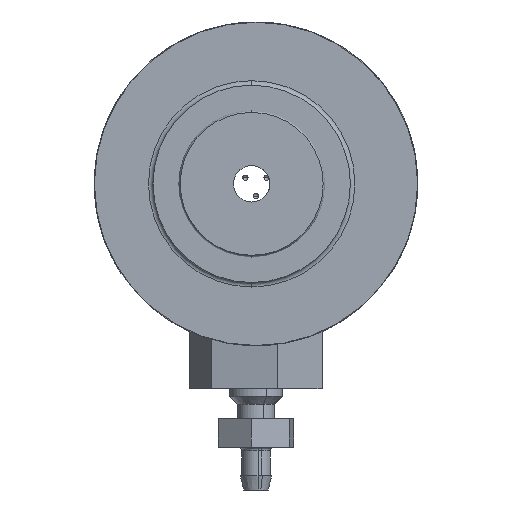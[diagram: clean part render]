
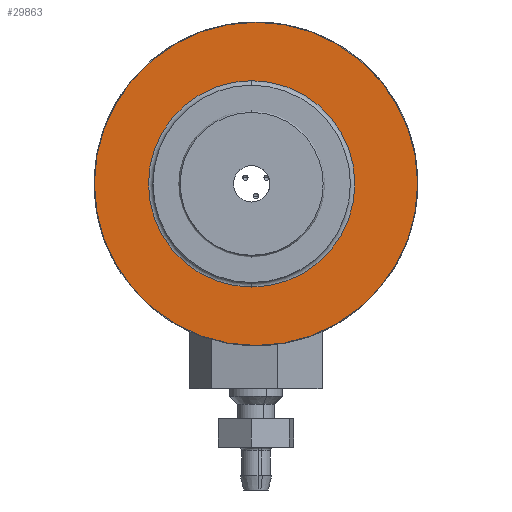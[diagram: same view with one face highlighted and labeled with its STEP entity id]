
A CAD part, front view. The second image highlights one B-rep face of the part: STEP entity #29863.
In plain terms, the highlighted planar face has unit normal (0, -1, 0).
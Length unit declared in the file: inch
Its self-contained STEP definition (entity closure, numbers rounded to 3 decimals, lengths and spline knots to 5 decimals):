
#1352 = AXIS2_PLACEMENT_3D ( 'NONE', #2691, #36770, #53840 ) ;
#2691 = CARTESIAN_POINT ( 'NONE',  ( 0.0189, 0.51378, 0. ) ) ;
#4884 = CARTESIAN_POINT ( 'NONE',  ( 0., 0.51378, 0.45177 ) ) ;
#6899 = FACE_BOUND ( 'NONE', #35901, .T. ) ;
#7248 = AXIS2_PLACEMENT_3D ( 'NONE', #28647, #33360, #54078 ) ;
#11162 = EDGE_CURVE ( 'NONE', #45292, #21036, #52991, .T. ) ;
#12372 = CARTESIAN_POINT ( 'NONE',  ( 0.0189, 0.51378, 0. ) ) ;
#18681 = EDGE_CURVE ( 'NONE', #21036, #45292, #20644, .T. ) ;
#19545 = EDGE_LOOP ( 'NONE', ( #51602, #55121 ) ) ;
#19701 = EDGE_CURVE ( 'NONE', #34333, #37837, #31343, .T. ) ;
#20644 = CIRCLE ( 'NONE', #25083, 0.70768 ) ;
#21036 = VERTEX_POINT ( 'NONE', #29599 ) ;
#22717 = EDGE_CURVE ( 'NONE', #37837, #34333, #28548, .T. ) ;
#23939 = FACE_OUTER_BOUND ( 'NONE', #19545, .T. ) ;
#25083 = AXIS2_PLACEMENT_3D ( 'NONE', #35956, #44924, #26755 ) ;
#26755 = DIRECTION ( 'NONE',  ( 0., 0., 1. ) ) ;
#28548 = CIRCLE ( 'NONE', #37407, 0.45177 ) ;
#28647 = CARTESIAN_POINT ( 'NONE',  ( 0., 0.51378, 0. ) ) ;
#29599 = CARTESIAN_POINT ( 'NONE',  ( 0.0189, 0.51378, 0.70768 ) ) ;
#29746 = DIRECTION ( 'NONE',  ( 0., 1., 0. ) ) ;
#29863 = ADVANCED_FACE ( 'NONE', ( #6899, #23939 ), #40954, .F. ) ;
#31168 = ORIENTED_EDGE ( 'NONE', *, *, #22717, .T. ) ;
#31343 = CIRCLE ( 'NONE', #7248, 0.45177 ) ;
#33360 = DIRECTION ( 'NONE',  ( 0., 1., 0. ) ) ;
#34333 = VERTEX_POINT ( 'NONE', #4884 ) ;
#35010 = CARTESIAN_POINT ( 'NONE',  ( 0., 0.51378, 0. ) ) ;
#35901 = EDGE_LOOP ( 'NONE', ( #44089, #31168 ) ) ;
#35956 = CARTESIAN_POINT ( 'NONE',  ( 0.0189, 0.51378, 0. ) ) ;
#36016 = AXIS2_PLACEMENT_3D ( 'NONE', #12372, #36969, #41443 ) ;
#36770 = DIRECTION ( 'NONE',  ( 0., 1., 0. ) ) ;
#36969 = DIRECTION ( 'NONE',  ( 0., 1., 0. ) ) ;
#37407 = AXIS2_PLACEMENT_3D ( 'NONE', #35010, #29746, #38940 ) ;
#37837 = VERTEX_POINT ( 'NONE', #44273 ) ;
#38940 = DIRECTION ( 'NONE',  ( 0., 0., 1. ) ) ;
#40954 = PLANE ( 'NONE',  #1352 ) ;
#41443 = DIRECTION ( 'NONE',  ( 0., 0., 1. ) ) ;
#44089 = ORIENTED_EDGE ( 'NONE', *, *, #19701, .T. ) ;
#44273 = CARTESIAN_POINT ( 'NONE',  ( 0., 0.51378, -0.45177 ) ) ;
#44924 = DIRECTION ( 'NONE',  ( 0., 1., 0. ) ) ;
#45292 = VERTEX_POINT ( 'NONE', #48982 ) ;
#48982 = CARTESIAN_POINT ( 'NONE',  ( 0.0189, 0.51378, -0.70768 ) ) ;
#51602 = ORIENTED_EDGE ( 'NONE', *, *, #11162, .F. ) ;
#52991 = CIRCLE ( 'NONE', #36016, 0.70768 ) ;
#53840 = DIRECTION ( 'NONE',  ( 0., 0., 1. ) ) ;
#54078 = DIRECTION ( 'NONE',  ( 0., 0., 1. ) ) ;
#55121 = ORIENTED_EDGE ( 'NONE', *, *, #18681, .F. ) ;
